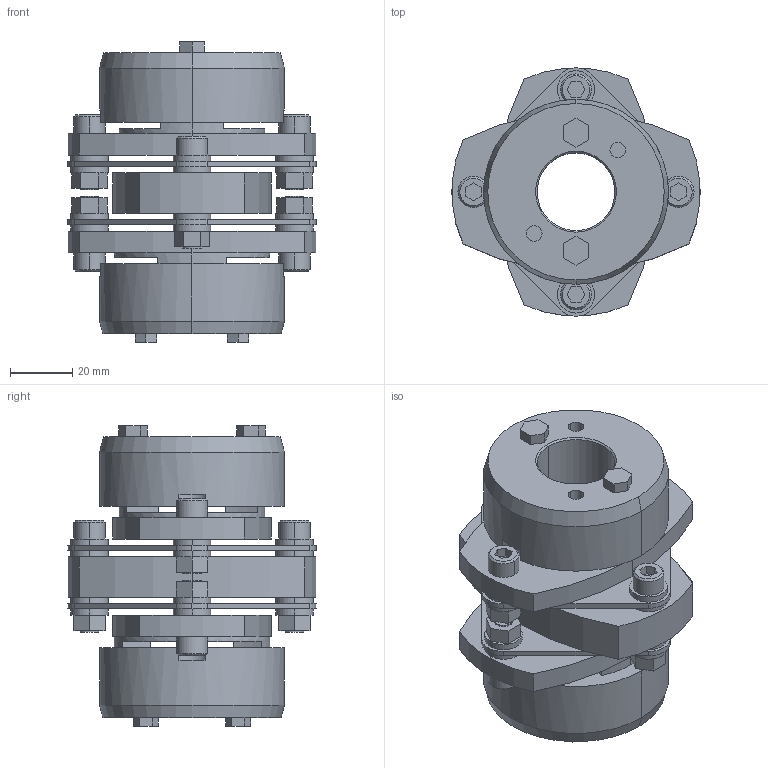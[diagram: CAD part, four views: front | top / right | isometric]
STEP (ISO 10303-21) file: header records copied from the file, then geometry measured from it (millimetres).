
FILE_DESCRIPTION((''),'2;1');
FILE_NAME('LCD-80T7-25×30.stp','2011-09-15T15:46:32',(''),(''),'AutoCAD STEP 2000i','AutoCAD 2000i',', , ');
FILE_SCHEMA(('CONFIG_CONTROL_DESIGN'));
Length unit declared in the file: millimetre
Products named in the file (12): LCD-80T7-24×30; 忣兜1; LC80T7-T030; LC80T7-T028; LC80T7-T024-1; LC80T7-T024; LC80T7-T022; LC80T7-T019-1; LC80T7-T019; LC80T7-T017-1; LC80T7-T017; LCD80-ITA
Assembly tree (11 placements, depth 2):
  LCD-80T7-24×30
    忣兜1
    LC80T7-T030
    LC80T7-T028
    LC80T7-T024-1
    LC80T7-T024
    LC80T7-T022
    LC80T7-T019-1
    LC80T7-T019
    LC80T7-T017-1
    LC80T7-T017
    LCD80-ITA
Bounding box: 80 x 79.95 x 96.8 mm (x, y, z)
Volume: 192327.4 mm3; surface area: 59442.1 mm2
Topology: 1 solids, 1 shells, 328 faces, 804 edges, 528 vertices
Faces by surface type: plane 180, cylinder 124, cone 24
Entity records: 10013 total; most frequent: DIRECTION 1780, CARTESIAN_POINT 1672, ORIENTED_EDGE 1608, EDGE_CURVE 804, AXIS2_PLACEMENT_3D 636, VERTEX_POINT 528, VECTOR 508, LINE 508
